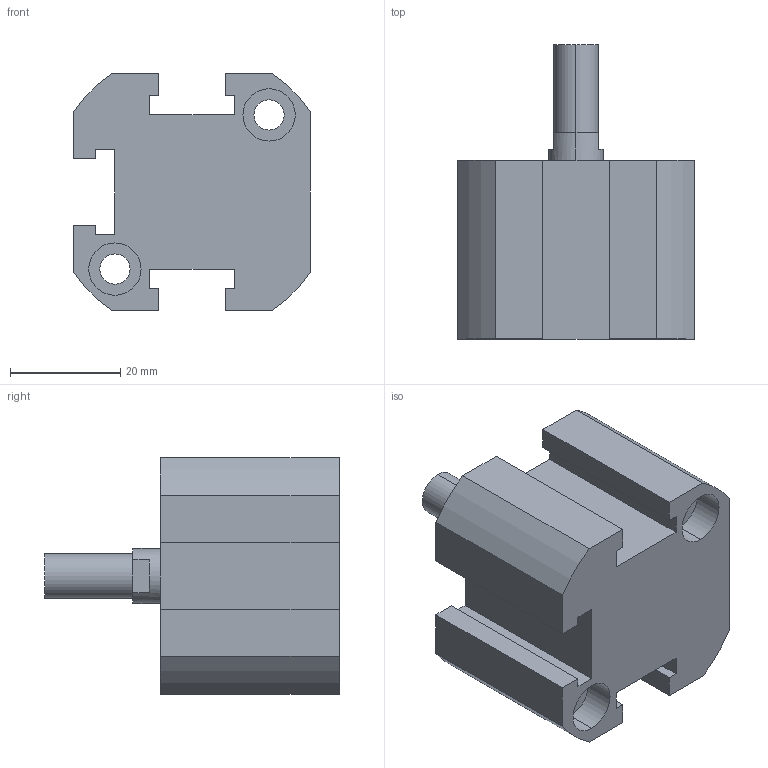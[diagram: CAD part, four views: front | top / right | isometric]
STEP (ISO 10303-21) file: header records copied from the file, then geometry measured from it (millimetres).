
FILE_DESCRIPTION (( 'STEP AP203' ), '1' );
FILE_NAME ('XC#M1-25-10.STEP', '2016-05-23T08:38:13', ( '' ), ( '' ), 'SwSTEP 2.0', 'SolidWorks 2014', '' );
FILE_SCHEMA (( 'CONFIG_CONTROL_DESIGN' ));
Length unit declared in the file: millimetre
Products named in the file (1): XC#M1-25-10
Bounding box: 43 x 53.5 x 43 mm (x, y, z)
Volume: 45285.5 mm3; surface area: 12460.9 mm2
Topology: 1 solids, 1 shells, 88 faces, 225 edges, 147 vertices
Faces by surface type: plane 46, cylinder 40, cone 2
Entity records: 2758 total; most frequent: DIRECTION 487, CARTESIAN_POINT 459, ORIENTED_EDGE 446, EDGE_CURVE 223, AXIS2_PLACEMENT_3D 175, VERTEX_POINT 147, LINE 137, VECTOR 137
